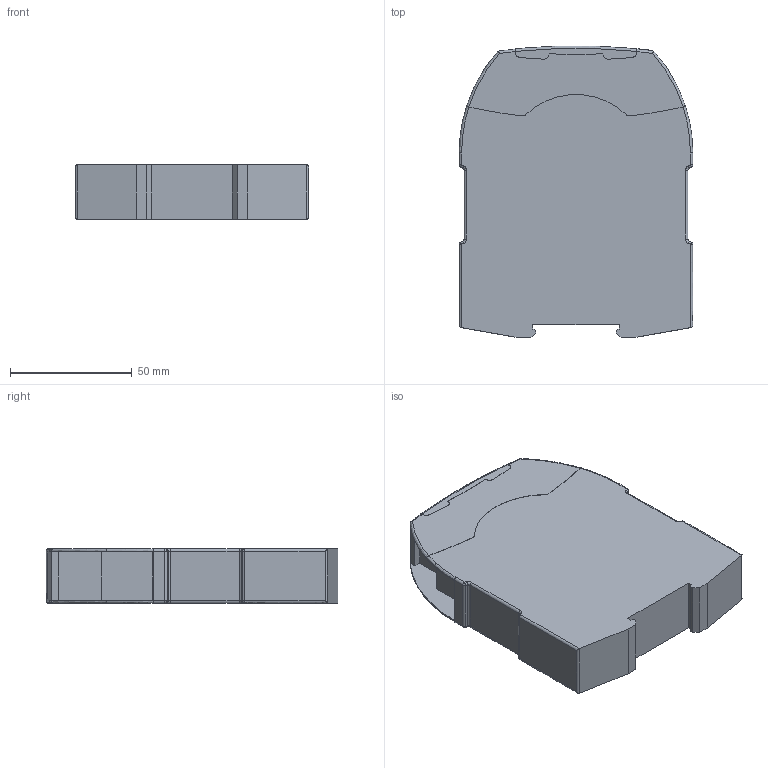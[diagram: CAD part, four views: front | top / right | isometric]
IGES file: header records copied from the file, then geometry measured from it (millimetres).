
Start section:  PTC IGES file: 2002216
Global section: file name: 2002216; native system: Pro/ENGINEER by Parametric Technology Corporation; preprocessor: 2009380; author: merz; organization: Unknown; date: 20100713.154828; units: millimetre
Bounding box: 96 x 119.98 x 22.5 mm (x, y, z)
Surface area: 32453 mm2 (no closed solid volume)
Topology: 0 solids, 0 shells, 197 faces, 1032 edges, 1032 vertices
Faces by surface type: revolution 108, bspline 89
